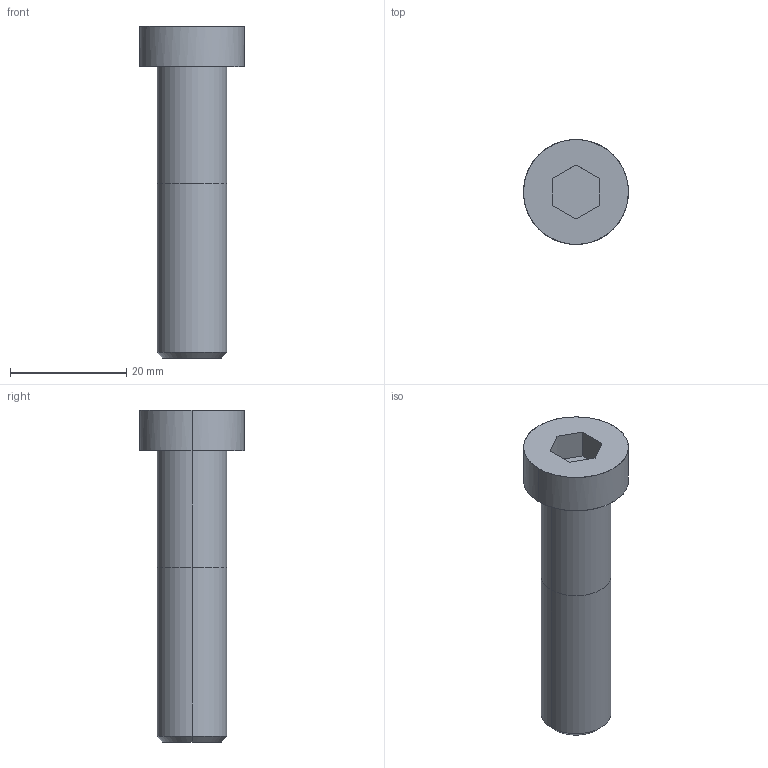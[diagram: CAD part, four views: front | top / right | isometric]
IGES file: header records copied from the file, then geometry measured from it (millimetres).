
Global section: file name: E:\UnigraphicsGraphicData\MISUMI_PRESS-PARTS\IGES\3d_cbs12-50_00458_r00.igs; native system: NX V5.0; preprocessor: UGS NX IGES V5.0; author: MISUMI; date: 20110105.160200; units: millimetre
Bounding box: 18 x 18 x 57 mm (x, y, z)
Surface area: 2906.5 mm2 (no closed solid volume)
Topology: 0 solids, 0 shells, 18 faces, 100 edges, 100 vertices
Faces by surface type: bspline 18
